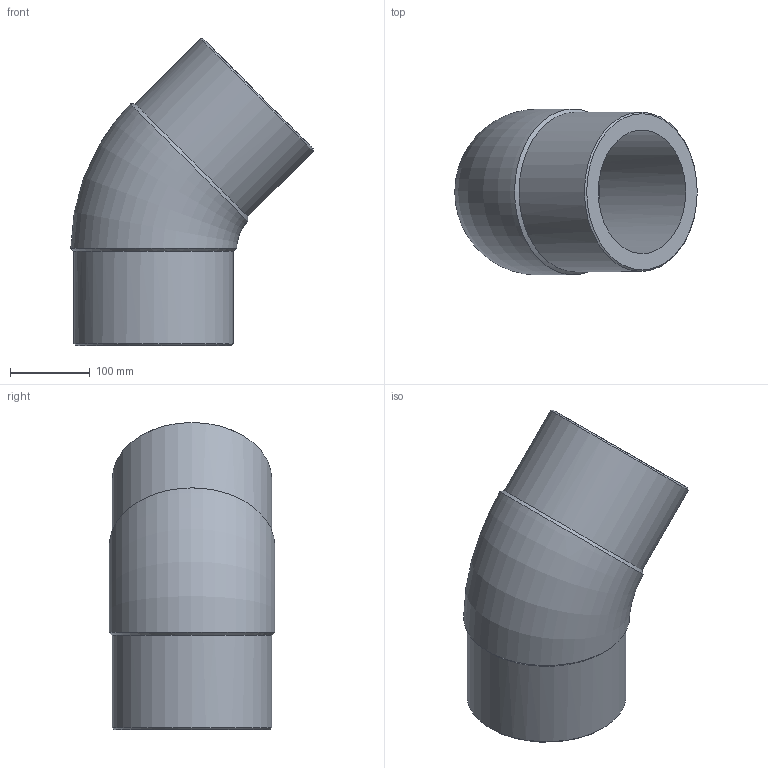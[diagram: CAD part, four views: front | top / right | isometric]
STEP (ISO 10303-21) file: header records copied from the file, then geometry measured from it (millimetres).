
FILE_DESCRIPTION(/* description */ ('Unknown'),/* implementation_level */ '2;1');
FILE_NAME(/* name */ 'G4P200G',/* time_stamp */ '2022-01-20T17:20:36+01:00',/* author */ ('Unknown'),/* organization */ ('Unknown'),/* preprocessor_version */ 'ST-DEVELOPER v18.1',/* originating_system */ 'Solid Edge',/* authorisation */ 'Unknown');
FILE_SCHEMA (('AUTOMOTIVE_DESIGN {1 0 10303 214 3 1 1}'));
Length unit declared in the file: millimetre
Products named in the file (1): G4P200G
Bounding box: 304.1 x 207.93 x 385.11 mm (x, y, z)
Volume: 4885007.3 mm3; surface area: 434153.1 mm2
Topology: 1 solids, 1 shells, 12 faces, 30 edges, 20 vertices
Faces by surface type: cone 4, cylinder 4, plane 2, torus 2
Full cylindrical faces by diameter (mm): 155.2 x2, 200 x2
Entity records: 462 total; most frequent: CARTESIAN_POINT 202, DIRECTION 48, ORIENTED_EDGE 34, AXIS2_PLACEMENT_3D 24, EDGE_LOOP 23, FACE_BOUND 23, EDGE_CURVE 17, VERTEX_POINT 16
